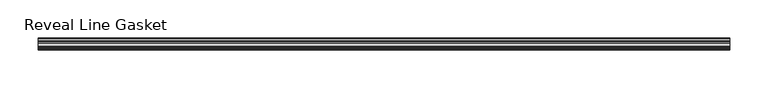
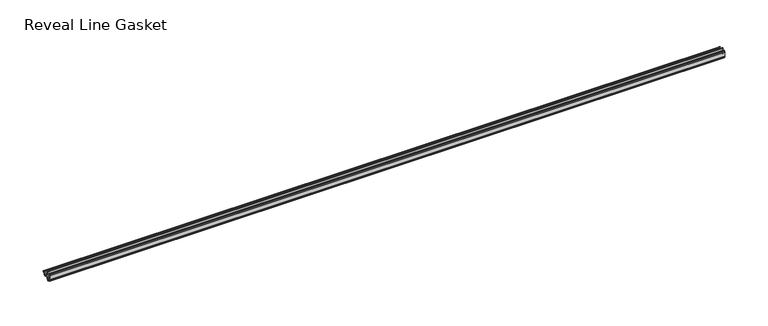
"""IFC4 building model written with IfcOpenShell, lengths in millimetres: proxy geometry, Accessories-Teknion-FHGR-AI_Healthcare-Reveal_Line_Gasket(Horizontal)-R2022 : Reveal Line Gasket."""

from ifc_helpers import new_model, si_unit, point, frame, frame_2d, origin, place, context, project, spatial, polyline, circle_curve, trimmed, segment, composite_curve, outline, extrude, source, transform, mapped, element, save


def reveal_line_gasket_fbd7e573(model_context):
    return source(origin(), model_context, "Body", "SweptSolid", [
        extrude(outline(composite_curve([segment(polyline([(-7.6326998, 1603.2), (-7.4091917, 1604.1554927), (-6.8813059, 1605.0884684)]), True, "CONTINUOUS"), segment(trimmed(circle_curve(frame_2d((-6.5243141, 1604.8864793)), 0.4101739), [point((-6.8813059, 1605.0884684))], [point((-6.1246704, 1604.7941347))], False, "CARTESIAN"), True, "CONTINUOUS"), segment(polyline([(-6.1246704, 1604.7941347), (-6.3626997, 1603.0979086), (-6.3626997, 1601.0654527)]), True, "CONTINUOUS"), segment(trimmed(circle_curve(frame_2d((-5.6959605, 1601.4819258)), 0.786124), [point((-6.3626997, 1601.0654527))], [point((-5.0926996, 1600.977875))], True, "CARTESIAN"), True, "CONTINUOUS"), segment(polyline([(-5.0926996, 1600.977875), (-0.7492996, 1600.977875), (-3.7293824, 1606.1395295)]), True, "CONTINUOUS"), segment(trimmed(circle_curve(frame_2d((-3.3132479, 1606.2049761)), 0.4212495), [point((-3.7293824, 1606.1395295))], [point((-3.0485022, 1606.5326358))], False, "CARTESIAN"), True, "CONTINUOUS"), segment(polyline([(-3.0485022, 1606.5326358), (0.5742594, 1600.977875), (4.8262978, 1600.977875), (3.1660374, 1603.8535297)]), True, "CONTINUOUS"), segment(trimmed(circle_curve(frame_2d((3.5978728, 1603.9118855)), 0.4357605), [point((3.1660374, 1603.8535297))], [point((3.864328, 1604.2566881))], False, "CARTESIAN"), True, "CONTINUOUS"), segment(polyline([(3.864328, 1604.2566881), (6.1944059, 1600.977875), (7.6326998, 1600.977875), (7.6326998, 1599.422125), (6.1944059, 1599.422125), (3.864328, 1596.1433119)]), True, "CONTINUOUS"), segment(trimmed(circle_curve(frame_2d((3.5978728, 1596.4881145)), 0.4357605), [point((3.864328, 1596.1433119))], [point((3.1660374, 1596.5464703))], False, "CARTESIAN"), True, "CONTINUOUS"), segment(polyline([(3.1660374, 1596.5464703), (4.8262978, 1599.422125), (0.5742594, 1599.422125), (-3.0485022, 1593.8673642)]), True, "CONTINUOUS"), segment(trimmed(circle_curve(frame_2d((-3.3132479, 1594.1950239)), 0.4212495), [point((-3.0485022, 1593.8673642))], [point((-3.7293824, 1594.2604705))], False, "CARTESIAN"), True, "CONTINUOUS"), segment(polyline([(-3.7293824, 1594.2604705), (-0.7492996, 1599.422125), (-5.0926996, 1599.422125)]), True, "CONTINUOUS"), segment(trimmed(circle_curve(frame_2d((-5.6959605, 1598.9180742)), 0.786124), [point((-5.0926996, 1599.422125))], [point((-6.3626997, 1599.3345473))], True, "CARTESIAN"), True, "CONTINUOUS"), segment(polyline([(-6.3626997, 1599.3345473), (-6.3626997, 1597.3020914), (-6.1246704, 1595.6058653)]), True, "CONTINUOUS"), segment(trimmed(circle_curve(frame_2d((-6.5243141, 1595.5135207)), 0.4101739), [point((-6.1246704, 1595.6058653))], [point((-6.8813059, 1595.3115316))], False, "CARTESIAN"), True, "CONTINUOUS"), segment(polyline([(-6.8813059, 1595.3115316), (-7.4091917, 1596.2445073), (-7.6326998, 1597.2), (-7.6326998, 1603.2)]), True, "CONTINUOUS")], self_intersect=False)), frame((-450.5079114, 0.0, 0.0), z_axis=(1.0, 0.0, 0.0), x_axis=(0.0, 1.0, 0.0)), (0.0, 0.0, 1.0), 901.0158229),
    ])


if __name__ == "__main__":
    model = new_model("IFC4")
    model_context = context("Model", 3, world=origin())
    ifc_project = project(units=[si_unit("LENGTHUNIT", "METRE", prefix="MILLI")], contexts=[model_context])
    site = spatial("IfcSite", under=ifc_project)
    building = spatial("IfcBuilding", under=site)
    placement = place(None, origin())
    reveal_line_gasket_shape = reveal_line_gasket_fbd7e573(model_context)
    element("IfcBuildingElementProxy", 1, Name="Accessories-Teknion-FHGR-AI_Healthcare-Reveal_Line_Gasket(Horizontal)-R2022 : Reveal Line Gasket", ObjectType="Accessories-Teknion-FHGR-AI_Healthcare-Reveal_Line_Gasket(Horizontal)-R2022 : Reveal Line Gasket", at=placement, inside=building, context=model_context, shape_type="MappedRepresentation", body=[
        mapped(reveal_line_gasket_shape, transform((0.0, 0.0, 0.0), x_axis=(1.0, 0.0, 0.0), y_axis=(0.0, 1.0, 0.0), z_axis=(0.0, 0.0, 1.0))),
    ])
    save(model, "model.ifc")
